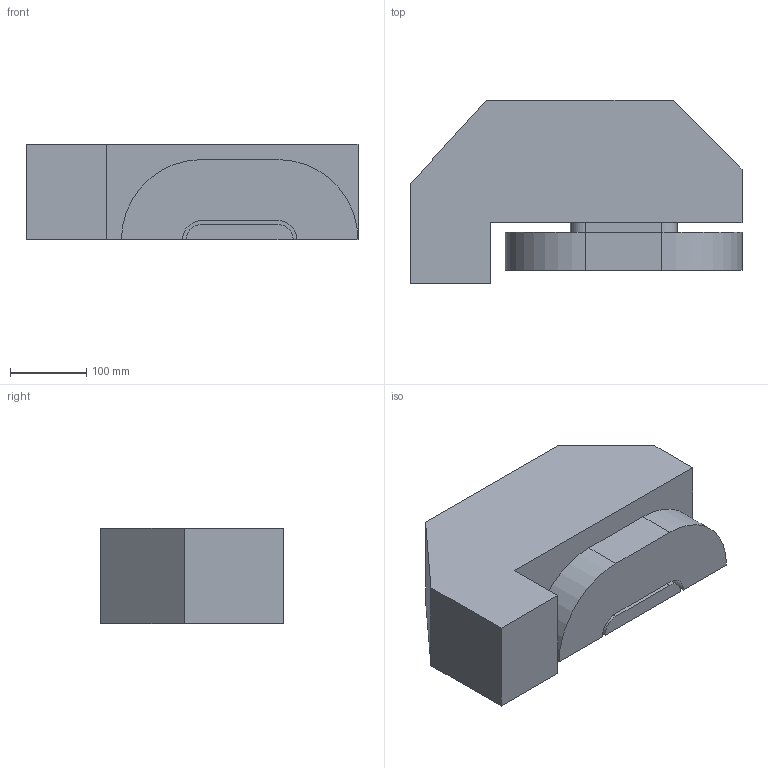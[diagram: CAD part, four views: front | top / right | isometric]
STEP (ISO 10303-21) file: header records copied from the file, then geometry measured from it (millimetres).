
FILE_DESCRIPTION(('STEP AP214'),'1');
FILE_NAME('Superbend_BC_model6_NewSingleCoil_step.step','2021-07-01T20:35:12',(' '),(' '),'Spatial InterOp 3D',' ',' ');
FILE_SCHEMA(('AUTOMOTIVE_DESIGN { 1 0 10303 214 1 1 1 1 }'));
Length unit declared in the file: millimetre
Products named in the file (1): Pole
Bounding box: 435 x 240 x 125 mm (x, y, z)
Volume: 9937334 mm3; surface area: 402669 mm2
Topology: 3 solids, 3 shells, 26 faces, 60 edges, 40 vertices
Faces by surface type: plane 20, cylinder 6
Entity records: 759 total; most frequent: DIRECTION 130, CARTESIAN_POINT 129, ORIENTED_EDGE 120, EDGE_CURVE 60, LINE 48, VECTOR 48, AXIS2_PLACEMENT_3D 41, VERTEX_POINT 40
